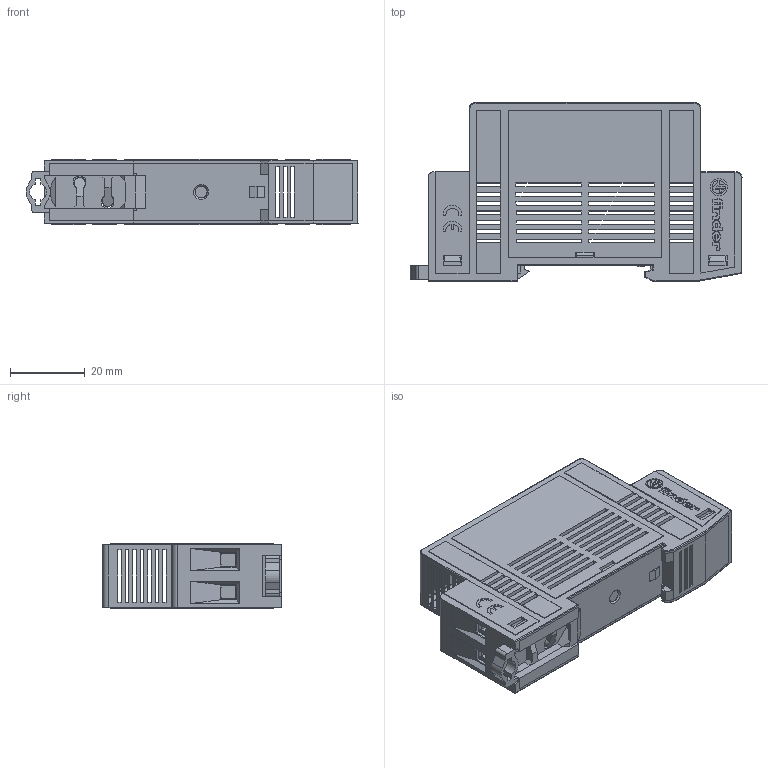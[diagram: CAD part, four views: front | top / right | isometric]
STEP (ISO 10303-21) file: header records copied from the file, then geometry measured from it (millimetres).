
FILE_DESCRIPTION(/* description */ ('Unknown'),/* implementation_level */ '2;1');
FILE_NAME(/* name */ '7T81_con feritoie',/* time_stamp */ '2017-09-06T10:43:06+02:00',/* author */ ('Unknown'),/* organization */ ('Unknown'),/* preprocessor_version */ 'ST-DEVELOPER v16.7',/* originating_system */ 'DEX',/* authorisation */ $);
FILE_SCHEMA (('AUTOMOTIVE_DESIGN {1 0 10303 214 3 1 1}'));
Length unit declared in the file: millimetre
Products named in the file (1): 7T81_con feritoie
Bounding box: 88.85 x 47.8 x 17.5 mm (x, y, z)
Surface area: 16906.2 mm2 (no closed solid volume)
Topology: 0 solids, 19 shells, 1112 faces, 3644 edges, 2461 vertices
Faces by surface type: plane 966, cylinder 105, bspline 37, sphere 4
Full cylindrical faces by diameter (mm): 3 x2, 4.566 x2, 5 x2, 12 x1
Entity records: 40258 total; most frequent: CARTESIAN_POINT 9215, ORIENTED_EDGE 6082, DIRECTION 5803, EDGE_CURVE 3629, LINE 3311, VECTOR 3311, VERTEX_POINT 2455, AXIS2_PLACEMENT_3D 1246
